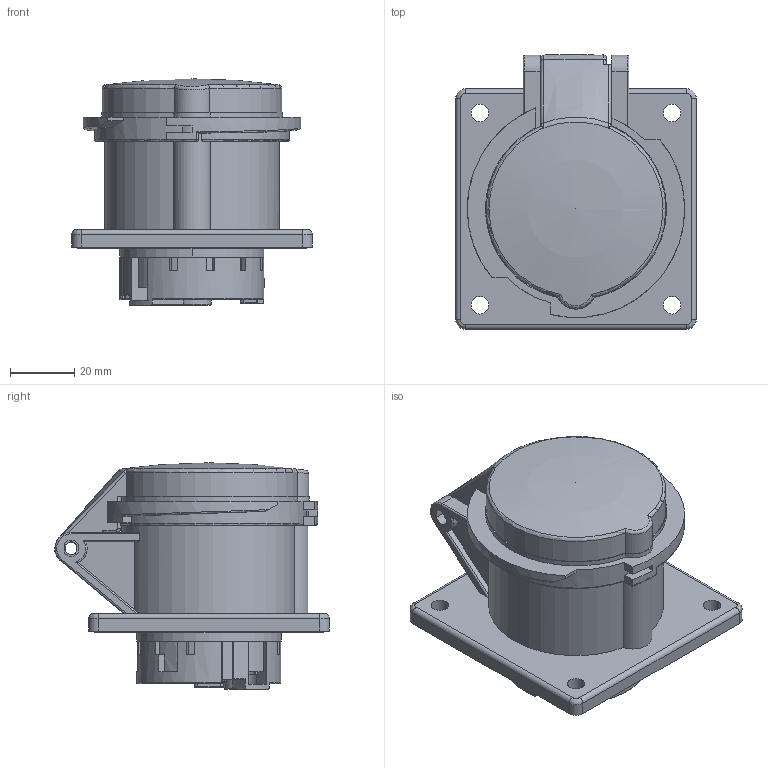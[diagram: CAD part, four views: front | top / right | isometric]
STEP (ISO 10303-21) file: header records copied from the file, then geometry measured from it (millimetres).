
FILE_DESCRIPTION(('FreeCAD Model'),'2;1');
FILE_NAME('Open CASCADE Shape Model','2026-02-04T10:30:50',(''),(''), 'Open CASCADE STEP processor 7.8','FreeCAD','Unknown');
FILE_SCHEMA(('AUTOMOTIVE_DESIGN { 1 0 10303 214 1 1 1 1 }'));
Length unit declared in the file: millimetre
Products named in the file (5): TL3R16443; Base interna; Tomada; Terminais; Tampa
Assembly tree (4 placements, depth 2):
  TL3R16443
    Base interna
    Tomada
    Terminais
    Tampa
Bounding box: 75 x 85.61 x 70.6 mm (x, y, z)
Volume: 173906.1 mm3; surface area: 55666.6 mm2
Topology: 4 solids, 13 shells, 721 faces, 1924 edges, 1261 vertices
Faces by surface type: plane 424, cylinder 206, torus 35, bspline 29, sphere 14, cone 13
Full cylindrical faces by diameter (mm): 7.5 x1
Entity records: 25011 total; most frequent: CARTESIAN_POINT 6691, ORIENTED_EDGE 3846, DIRECTION 3760, EDGE_CURVE 1923, AXIS2_PLACEMENT_3D 1276, VERTEX_POINT 1261, LINE 1208, VECTOR 1208
